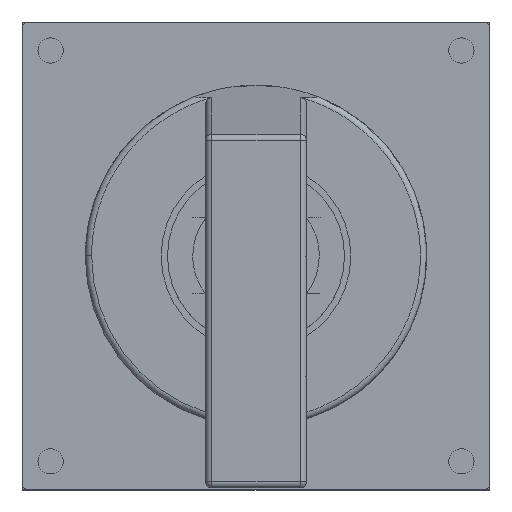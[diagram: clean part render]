
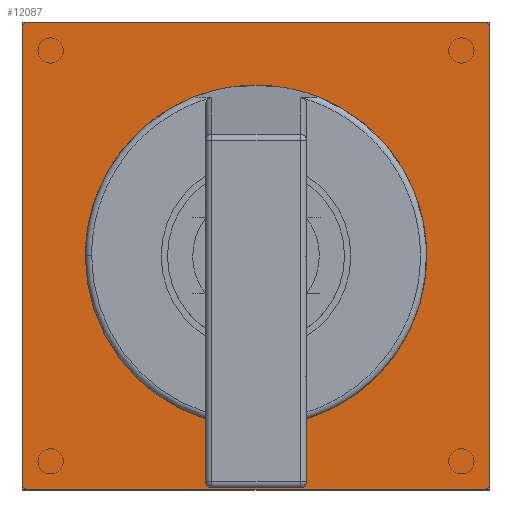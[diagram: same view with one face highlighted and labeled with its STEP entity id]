
A CAD part, top view. The second image highlights one B-rep face of the part: STEP entity #12087.
In plain terms, the highlighted planar face has unit normal (0, 0, 1).
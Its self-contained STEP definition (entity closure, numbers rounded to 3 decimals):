
#99 = CARTESIAN_POINT ( 'NONE',  ( 20.013, 21.411, 360.373 ) ) ;
#219 = CARTESIAN_POINT ( 'NONE',  ( 34.598, 21.411, 360.373 ) ) ;
#250 = VERTEX_POINT ( 'NONE', #7866 ) ;
#833 = DIRECTION ( 'NONE',  ( -1., 0., 0. ) ) ;
#953 = ORIENTED_EDGE ( 'NONE', *, *, #13109, .F. ) ;
#1246 = CARTESIAN_POINT ( 'NONE',  ( -8.402, 14.411, 360.373 ) ) ;
#1279 = EDGE_CURVE ( 'NONE', #3537, #13476, #5898, .T. ) ;
#1561 = ORIENTED_EDGE ( 'NONE', *, *, #4630, .T. ) ;
#1596 = CARTESIAN_POINT ( 'NONE',  ( 19.598, 21.833, 360.373 ) ) ;
#1810 = CARTESIAN_POINT ( 'NONE',  ( 35.598, 22.431, 360.373 ) ) ;
#1845 = CARTESIAN_POINT ( 'NONE',  ( 64.598, 14.411, 360.373 ) ) ;
#1943 = VECTOR ( 'NONE', #4952, 1000. ) ;
#1949 = CARTESIAN_POINT ( 'NONE',  ( -9.402, 87.411, 360.373 ) ) ;
#2128 = DIRECTION ( 'NONE',  ( 0., 0., 1. ) ) ;
#2141 = EDGE_CURVE ( 'NONE', #16480, #6437, #16496, .T. ) ;
#2181 = EDGE_CURVE ( 'NONE', #5201, #13759, #20015, .T. ) ;
#2347 = DIRECTION ( 'NONE',  ( -1., 0., 0. ) ) ;
#2386 = AXIS2_PLACEMENT_3D ( 'NONE', #10415, #14399, #4322 ) ;
#2424 = DIRECTION ( 'NONE',  ( 0., 0., 1. ) ) ;
#2435 = CARTESIAN_POINT ( 'NONE',  ( 105.391, 21.411, 360.373 ) ) ;
#2818 = CARTESIAN_POINT ( 'NONE',  ( 19.598, 24.623, 360.373 ) ) ;
#3095 = CARTESIAN_POINT ( 'NONE',  ( 27.598, 77.411, 360.373 ) ) ;
#3102 = EDGE_CURVE ( 'NONE', #14018, #19956, #19286, .T. ) ;
#3301 = CARTESIAN_POINT ( 'NONE',  ( 20.598, 21.411, 360.373 ) ) ;
#3507 = CARTESIAN_POINT ( 'NONE',  ( 19.598, 22.431, 360.373 ) ) ;
#3537 = VERTEX_POINT ( 'NONE', #3095 ) ;
#3743 = CARTESIAN_POINT ( 'NONE',  ( 27.598, 50.411, 360.373 ) ) ;
#3847 = EDGE_CURVE ( 'NONE', #9977, #11611, #18451, .T. ) ;
#3864 = DIRECTION ( 'NONE',  ( 0., 0., 1. ) ) ;
#3896 = PLANE ( 'NONE',  #2386 ) ;
#4249 = ORIENTED_EDGE ( 'NONE', *, *, #6542, .T. ) ;
#4322 = DIRECTION ( 'NONE',  ( 0., -1., 0. ) ) ;
#4416 = CARTESIAN_POINT ( 'NONE',  ( 34.598, 21.411, 360.373 ) ) ;
#4630 = EDGE_CURVE ( 'NONE', #18033, #13759, #10276, .T. ) ;
#4757 = CARTESIAN_POINT ( 'NONE',  ( 63.598, 86.411, 360.373 ) ) ;
#4758 = CARTESIAN_POINT ( 'NONE',  ( 64.598, 86.411, 360.373 ) ) ;
#4804 = CARTESIAN_POINT ( 'NONE',  ( 35.598, 22.431, 360.373 ) ) ;
#4884 = CARTESIAN_POINT ( 'NONE',  ( 27.598, 50.411, 360.373 ) ) ;
#4952 = DIRECTION ( 'NONE',  ( 0., -1., 0. ) ) ;
#4979 = CARTESIAN_POINT ( 'NONE',  ( 63.598, 13.411, 360.373 ) ) ;
#4992 = ORIENTED_EDGE ( 'NONE', *, *, #20194, .T. ) ;
#5201 = VERTEX_POINT ( 'NONE', #2818 ) ;
#5230 = DIRECTION ( 'NONE',  ( 0., -1., 0. ) ) ;
#5267 = CARTESIAN_POINT ( 'NONE',  ( -8.402, 13.411, 360.373 ) ) ;
#5359 = VERTEX_POINT ( 'NONE', #4758 ) ;
#5360 = CIRCLE ( 'NONE', #8441, 1. ) ;
#5507 = FACE_BOUND ( 'NONE', #9472, .T. ) ;
#5898 = CIRCLE ( 'NONE', #11030, 27. ) ;
#5996 = CARTESIAN_POINT ( 'NONE',  ( 63.598, 14.411, 360.373 ) ) ;
#6065 = CIRCLE ( 'NONE', #11867, 1. ) ;
#6192 = DIRECTION ( 'NONE',  ( 0., 1., 0. ) ) ;
#6429 = EDGE_CURVE ( 'NONE', #250, #14533, #6665, .T. ) ;
#6437 = VERTEX_POINT ( 'NONE', #1845 ) ;
#6542 = EDGE_CURVE ( 'NONE', #11134, #16480, #7077, .T. ) ;
#6570 = EDGE_CURVE ( 'NONE', #11611, #250, #5360, .T. ) ;
#6665 = LINE ( 'NONE', #16314, #1943 ) ;
#6992 = ORIENTED_EDGE ( 'NONE', *, *, #3847, .T. ) ;
#7032 = ORIENTED_EDGE ( 'NONE', *, *, #15758, .T. ) ;
#7077 = LINE ( 'NONE', #16935, #7407 ) ;
#7407 = VECTOR ( 'NONE', #8592, 1000. ) ;
#7784 = LINE ( 'NONE', #14317, #11579 ) ;
#7800 = VECTOR ( 'NONE', #833, 1000. ) ;
#7866 = CARTESIAN_POINT ( 'NONE',  ( -9.402, 86.411, 360.373 ) ) ;
#7936 = VERTEX_POINT ( 'NONE', #4416 ) ;
#8107 =( BOUNDED_CURVE ( )  B_SPLINE_CURVE ( 3, ( #1810, #17786, #8449, #219 ),
 .UNSPECIFIED., .F., .F. ) 
 B_SPLINE_CURVE_WITH_KNOTS ( ( 4, 4 ),
 ( 1.571, 3.142 ),
 .UNSPECIFIED. ) 
 CURVE ( )  GEOMETRIC_REPRESENTATION_ITEM ( )  RATIONAL_B_SPLINE_CURVE ( ( 1., 0.805, 0.805, 1. ) ) 
 REPRESENTATION_ITEM ( '' )  );
#8306 = DIRECTION ( 'NONE',  ( -1., 0., 0. ) ) ;
#8441 = AXIS2_PLACEMENT_3D ( 'NONE', #15115, #3864, #19945 ) ;
#8449 = CARTESIAN_POINT ( 'NONE',  ( 35.184, 21.411, 360.373 ) ) ;
#8592 = DIRECTION ( 'NONE',  ( 1., 0., 0. ) ) ;
#8855 = LINE ( 'NONE', #2435, #7800 ) ;
#8938 = DIRECTION ( 'NONE',  ( -1., 0., 0. ) ) ;
#9186 = CIRCLE ( 'NONE', #15681, 27. ) ;
#9343 = CARTESIAN_POINT ( 'NONE',  ( 63.598, 87.411, 360.373 ) ) ;
#9347 = DIRECTION ( 'NONE',  ( -1., 0., 0. ) ) ;
#9472 = EDGE_LOOP ( 'NONE', ( #9886, #13398, #18177, #17001, #13780, #1561, #13323, #953 ) ) ;
#9538 = CARTESIAN_POINT ( 'NONE',  ( 35.598, 87.412, 360.373 ) ) ;
#9886 = ORIENTED_EDGE ( 'NONE', *, *, #1279, .F. ) ;
#9977 = VERTEX_POINT ( 'NONE', #9343 ) ;
#10002 = DIRECTION ( 'NONE',  ( 0., 0., 1. ) ) ;
#10042 = VECTOR ( 'NONE', #13189, 1000. ) ;
#10276 =( BOUNDED_CURVE ( )  B_SPLINE_CURVE ( 3, ( #3301, #99, #1596, #3507 ),
 .UNSPECIFIED., .F., .F. ) 
 B_SPLINE_CURVE_WITH_KNOTS ( ( 4, 4 ),
 ( 0., 1.571 ),
 .UNSPECIFIED. ) 
 CURVE ( )  GEOMETRIC_REPRESENTATION_ITEM ( )  RATIONAL_B_SPLINE_CURVE ( ( 1., 0.805, 0.805, 1. ) ) 
 REPRESENTATION_ITEM ( '' )  );
#10321 = CARTESIAN_POINT ( 'NONE',  ( 27.598, 50.411, 360.373 ) ) ;
#10415 = CARTESIAN_POINT ( 'NONE',  ( -9.402, 13.411, 360.373 ) ) ;
#10885 = EDGE_CURVE ( 'NONE', #14018, #3537, #9186, .T. ) ;
#11023 = DIRECTION ( 'NONE',  ( 0., -1., 0. ) ) ;
#11030 = AXIS2_PLACEMENT_3D ( 'NONE', #10321, #10002, #19981 ) ;
#11134 = VERTEX_POINT ( 'NONE', #5267 ) ;
#11409 = DIRECTION ( 'NONE',  ( 0., 0., 1. ) ) ;
#11450 = CIRCLE ( 'NONE', #17262, 27. ) ;
#11579 = VECTOR ( 'NONE', #6192, 1000. ) ;
#11611 = VERTEX_POINT ( 'NONE', #12384 ) ;
#11740 = VECTOR ( 'NONE', #11023, 1000. ) ;
#11867 = AXIS2_PLACEMENT_3D ( 'NONE', #4757, #12678, #9347 ) ;
#11969 = EDGE_LOOP ( 'NONE', ( #17789, #7032, #6992, #13949, #18135, #4992, #4249, #17296 ) ) ;
#12087 = ADVANCED_FACE ( 'NONE', ( #5507, #18577 ), #3896, .F. ) ;
#12267 = AXIS2_PLACEMENT_3D ( 'NONE', #1246, #2424, #8938 ) ;
#12384 = CARTESIAN_POINT ( 'NONE',  ( -8.402, 87.411, 360.373 ) ) ;
#12523 = DIRECTION ( 'NONE',  ( 0., 0., 1. ) ) ;
#12678 = DIRECTION ( 'NONE',  ( 0., 0., 1. ) ) ;
#12994 = EDGE_CURVE ( 'NONE', #19956, #7936, #8107, .T. ) ;
#13109 = EDGE_CURVE ( 'NONE', #13476, #5201, #11450, .T. ) ;
#13189 = DIRECTION ( 'NONE',  ( -1., 0., 0. ) ) ;
#13323 = ORIENTED_EDGE ( 'NONE', *, *, #2181, .F. ) ;
#13389 = CARTESIAN_POINT ( 'NONE',  ( 20.598, 21.411, 360.373 ) ) ;
#13398 = ORIENTED_EDGE ( 'NONE', *, *, #10885, .F. ) ;
#13476 = VERTEX_POINT ( 'NONE', #15449 ) ;
#13759 = VERTEX_POINT ( 'NONE', #19934 ) ;
#13780 = ORIENTED_EDGE ( 'NONE', *, *, #17519, .T. ) ;
#13949 = ORIENTED_EDGE ( 'NONE', *, *, #6570, .T. ) ;
#14018 = VERTEX_POINT ( 'NONE', #17547 ) ;
#14317 = CARTESIAN_POINT ( 'NONE',  ( 64.598, 13.411, 360.373 ) ) ;
#14399 = DIRECTION ( 'NONE',  ( 0., 0., -1. ) ) ;
#14533 = VERTEX_POINT ( 'NONE', #14684 ) ;
#14684 = CARTESIAN_POINT ( 'NONE',  ( -9.402, 14.411, 360.373 ) ) ;
#15115 = CARTESIAN_POINT ( 'NONE',  ( -8.402, 86.411, 360.373 ) ) ;
#15449 = CARTESIAN_POINT ( 'NONE',  ( 0.598, 50.411, 360.373 ) ) ;
#15681 = AXIS2_PLACEMENT_3D ( 'NONE', #4884, #11409, #8306 ) ;
#15758 = EDGE_CURVE ( 'NONE', #5359, #9977, #6065, .T. ) ;
#15846 = DIRECTION ( 'NONE',  ( -1., 0., 0. ) ) ;
#16314 = CARTESIAN_POINT ( 'NONE',  ( -9.402, 13.411, 360.373 ) ) ;
#16480 = VERTEX_POINT ( 'NONE', #4979 ) ;
#16496 = CIRCLE ( 'NONE', #18211, 1. ) ;
#16935 = CARTESIAN_POINT ( 'NONE',  ( -9.402, 13.411, 360.373 ) ) ;
#17001 = ORIENTED_EDGE ( 'NONE', *, *, #12994, .T. ) ;
#17262 = AXIS2_PLACEMENT_3D ( 'NONE', #3743, #2128, #2347 ) ;
#17296 = ORIENTED_EDGE ( 'NONE', *, *, #2141, .T. ) ;
#17420 = CIRCLE ( 'NONE', #12267, 1. ) ;
#17519 = EDGE_CURVE ( 'NONE', #7936, #18033, #8855, .T. ) ;
#17547 = CARTESIAN_POINT ( 'NONE',  ( 35.598, 24.623, 360.373 ) ) ;
#17786 = CARTESIAN_POINT ( 'NONE',  ( 35.598, 21.833, 360.373 ) ) ;
#17789 = ORIENTED_EDGE ( 'NONE', *, *, #18739, .T. ) ;
#18033 = VERTEX_POINT ( 'NONE', #13389 ) ;
#18135 = ORIENTED_EDGE ( 'NONE', *, *, #6429, .T. ) ;
#18177 = ORIENTED_EDGE ( 'NONE', *, *, #3102, .T. ) ;
#18211 = AXIS2_PLACEMENT_3D ( 'NONE', #5996, #12523, #15846 ) ;
#18451 = LINE ( 'NONE', #1949, #10042 ) ;
#18577 = FACE_OUTER_BOUND ( 'NONE', #11969, .T. ) ;
#18739 = EDGE_CURVE ( 'NONE', #6437, #5359, #7784, .T. ) ;
#19246 = VECTOR ( 'NONE', #5230, 1000. ) ;
#19286 = LINE ( 'NONE', #9538, #11740 ) ;
#19914 = CARTESIAN_POINT ( 'NONE',  ( 19.598, 87.412, 360.373 ) ) ;
#19934 = CARTESIAN_POINT ( 'NONE',  ( 19.598, 22.431, 360.373 ) ) ;
#19945 = DIRECTION ( 'NONE',  ( -1., 0., 0. ) ) ;
#19956 = VERTEX_POINT ( 'NONE', #4804 ) ;
#19981 = DIRECTION ( 'NONE',  ( -1., 0., 0. ) ) ;
#20015 = LINE ( 'NONE', #19914, #19246 ) ;
#20194 = EDGE_CURVE ( 'NONE', #14533, #11134, #17420, .T. ) ;
